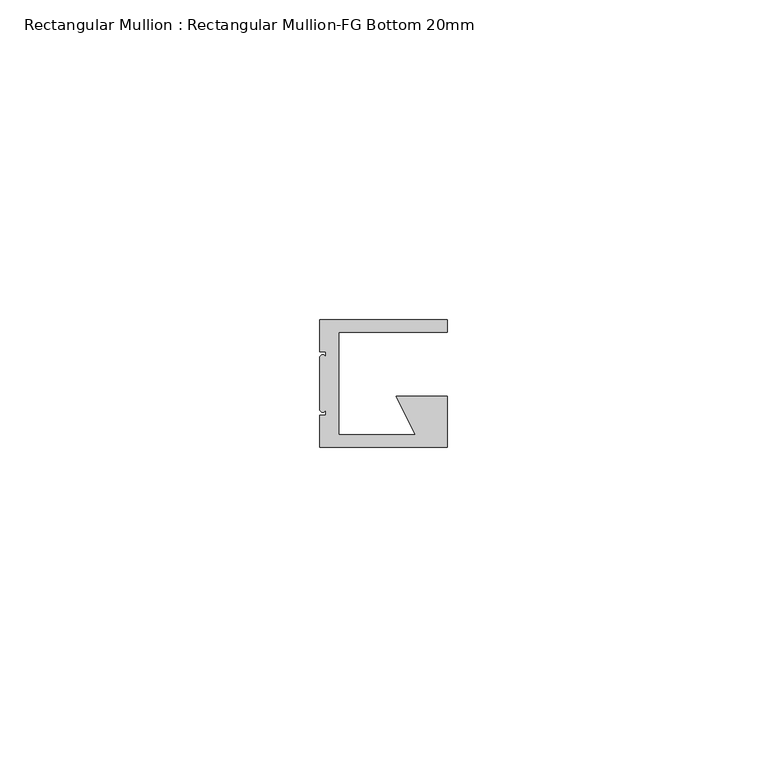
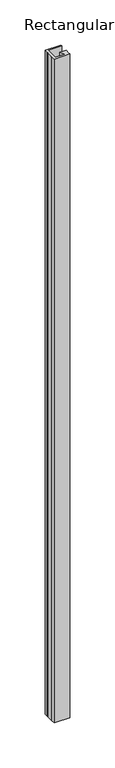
"""IFC4 building model written with IfcOpenShell, lengths in millimetres: member geometry, Rectangular Mullion : Rectangular Mullion-FG Bottom 20mm."""

from ifc_helpers import new_model, si_unit, frame, origin, place, context, project, spatial, circle_curve, source, transform, mapped, element, save
from ifc_brep_helpers import plane_surface, cylinder_surface, advanced_brep


def rectangular_mullion_rectangular_mullion_fg_bottom_20mm_6217017c(model_context):
    return source(origin(), model_context, "Body", "AdvancedBrep", [
        advanced_brep(
        [(-20.0, -5.0, 0.0), (-19.0, -5.0, 0.0), (-19.0, -6.0, 0.0), (-20.0, -6.0, 0.0), (-20.0, -14.0, 0.0), (-19.0, -14.0, 0.0), (-19.0, -15.0, 0.0), (-20.0, -15.0, 0.0), (-20.0, -20.0, 0.0), (0.0, -20.0, 0.0), (0.0, -18.0, 0.0), (0.0, -12.0, 0.0), (-8.0, -12.0, 0.0), (-5.0, -18.0, 0.0), (-17.0, -18.0, 0.0), (-17.0, -2.0, 0.0), (0.0, -2.0, 0.0), (0.0, 0.0, 0.0), (-20.0, 0.0, 0.0), (-20.0, -5.0, -900.0), (-20.0, 0.0, -900.0), (0.0, 0.0, -900.0), (0.0, -2.0, -900.0), (-17.0, -2.0, -900.0), (-17.0, -18.0, -900.0), (-5.0, -18.0, -900.0), (-8.0, -12.0, -900.0), (0.0, -12.0, -900.0), (0.0, -18.0, -900.0), (0.0, -20.0, -900.0), (-20.0, -20.0, -900.0), (-20.0, -15.0, -900.0), (-19.0, -15.0, -900.0), (-19.0, -14.0, -900.0), (-20.0, -14.0, -900.0), (-20.0, -6.0, -900.0), (-19.0, -6.0, -900.0), (-19.0, -5.0, -900.0)],
        [
            (0, 1),
            (1, 2),
            (2, 3, circle_curve(frame((-19.5, -6.0, 0.0), z_axis=(0.0, 0.0, 1.0), x_axis=(-1.0, 0.0, 0.0)), 0.5)),
            (3, 4),
            (4, 5, circle_curve(frame((-19.5, -14.0, 0.0), z_axis=(0.0, 0.0, 1.0), x_axis=(-1.0, 0.0, 0.0)), 0.5)),
            (5, 6),
            (6, 7),
            (7, 8),
            (8, 9),
            (9, 10),
            (10, 11),
            (11, 12),
            (12, 13),
            (13, 14),
            (14, 15),
            (15, 16),
            (16, 17),
            (17, 18),
            (18, 0),
            (19, 20),
            (20, 21),
            (21, 22),
            (22, 23),
            (23, 24),
            (24, 25),
            (25, 26),
            (26, 27),
            (27, 28),
            (28, 29),
            (29, 30),
            (30, 31),
            (31, 32),
            (32, 33),
            (33, 34, circle_curve(frame((-19.5, -14.0, -900.0), z_axis=(0.0, 0.0, -1.0), x_axis=(-1.0, 0.0, 0.0)), 0.5)),
            (34, 35),
            (35, 36, circle_curve(frame((-19.5, -6.0, -900.0), z_axis=(0.0, 0.0, -1.0), x_axis=(-1.0, 0.0, 0.0)), 0.5)),
            (36, 37),
            (37, 19),
            (0, 19),
            (37, 1),
            (36, 2),
            (35, 3),
            (34, 4),
            (33, 5),
            (32, 6),
            (31, 7),
            (30, 8),
            (29, 9),
            (28, 10),
            (27, 11),
            (26, 12),
            (25, 13),
            (24, 14),
            (23, 15),
            (22, 16),
            (21, 17),
            (20, 18),
        ],
        [
            plane_surface(frame((0.0, -28.2842712, 0.0), z_axis=(0.0, 0.0, 1.0), x_axis=(-1.0, 0.0, 0.0))),
            plane_surface(frame((0.0, -28.2842712, -900.0), z_axis=(0.0, 0.0, -1.0), x_axis=(-1.0, 0.0, 0.0))),
            plane_surface(frame((-20.0, -5.0, 0.0), z_axis=(0.0, -1.0, 0.0), x_axis=(0.0, 0.0, -1.0))),
            plane_surface(frame((-19.0, -5.0, 0.0), z_axis=(-1.0, 0.0, 0.0), x_axis=(0.0, 0.0, -1.0))),
            cylinder_surface(frame((-19.5, -6.0, 0.0), z_axis=(0.0, 0.0, 1.0), x_axis=(-1.0, 0.0, 0.0)), 0.5),
            plane_surface(frame((-20.0, -6.0, 0.0), z_axis=(-1.0, 0.0, 0.0), x_axis=(0.0, 0.0, -1.0))),
            cylinder_surface(frame((-19.5, -14.0, 0.0), z_axis=(0.0, 0.0, 1.0), x_axis=(-1.0, 0.0, 0.0)), 0.5),
            plane_surface(frame((-19.0, -14.0, 0.0), z_axis=(-1.0, 0.0, 0.0), x_axis=(0.0, 0.0, -1.0))),
            plane_surface(frame((-19.0, -15.0, 0.0), z_axis=(0.0, 1.0, 0.0), x_axis=(0.0, 0.0, -1.0))),
            plane_surface(frame((-20.0, -15.0, 0.0), z_axis=(-1.0, 0.0, 0.0), x_axis=(0.0, 0.0, -1.0))),
            plane_surface(frame((-20.0, -20.0, 0.0), z_axis=(0.0, -1.0, 0.0), x_axis=(0.0, 0.0, -1.0))),
            plane_surface(frame((0.0, -20.0, 0.0), z_axis=(1.0, 0.0, 0.0), x_axis=(0.0, 0.0, -1.0))),
            plane_surface(frame((0.0, -18.0, 0.0), z_axis=(1.0, 0.0, 0.0), x_axis=(0.0, 0.0, -1.0))),
            plane_surface(frame((0.0, -12.0, 0.0), z_axis=(0.0, 1.0, 0.0), x_axis=(0.0, 0.0, -1.0))),
            plane_surface(frame((-8.0, -12.0, 0.0), z_axis=(-0.8944271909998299, -0.4472135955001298, 0.0), x_axis=(0.0, 0.0, -1.0))),
            plane_surface(frame((-5.0, -18.0, 0.0), z_axis=(0.0, 1.0, 0.0), x_axis=(0.0, 0.0, -1.0))),
            plane_surface(frame((-17.0, -18.0, 0.0), z_axis=(1.0, 0.0, 0.0), x_axis=(0.0, 0.0, -1.0))),
            plane_surface(frame((-17.0, -2.0, 0.0), z_axis=(0.0, -1.0, 0.0), x_axis=(0.0, 0.0, -1.0))),
            plane_surface(frame((0.0, -2.0, 0.0), z_axis=(1.0, 0.0, 0.0), x_axis=(0.0, 0.0, -1.0))),
            plane_surface(frame((0.0, 0.0, 0.0), z_axis=(0.0, 1.0, 0.0), x_axis=(0.0, 0.0, -1.0))),
            plane_surface(frame((-20.0, 0.0, 0.0), z_axis=(-1.0, 0.0, 0.0), x_axis=(0.0, 0.0, -1.0))),
        ],
        [
            (0, [[1, 2, 3, 4, 5, 6, 7, 8, 9, 10, 11, 12, 13, 14, 15, 16, 17, 18, 19]]),
            (1, [[20, 21, 22, 23, 24, 25, 26, 27, 28, 29, 30, 31, 32, 33, 34, 35, 36, 37, 38]]),
            (2, [[-1, 39, -38, 40]]),
            (3, [[-2, -40, -37, 41]]),
            (4, [[-3, -41, -36, 42]]),
            (5, [[-4, -42, -35, 43]]),
            (6, [[-5, -43, -34, 44]]),
            (7, [[-6, -44, -33, 45]]),
            (8, [[-7, -45, -32, 46]]),
            (9, [[-8, -46, -31, 47]]),
            (10, [[-9, -47, -30, 48]]),
            (11, [[-10, -48, -29, 49]]),
            (12, [[-11, -49, -28, 50]]),
            (13, [[-12, -50, -27, 51]]),
            (14, [[-13, -51, -26, 52]]),
            (15, [[-14, -52, -25, 53]]),
            (16, [[-15, -53, -24, 54]]),
            (17, [[-16, -54, -23, 55]]),
            (18, [[-17, -55, -22, 56]]),
            (19, [[-18, -56, -21, 57]]),
            (20, [[-19, -57, -20, -39]]),
        ],
    ),
    ])


if __name__ == "__main__":
    model = new_model("IFC4")
    model_context = context("Model", 3, world=origin())
    ifc_project = project(units=[si_unit("LENGTHUNIT", "METRE", prefix="MILLI")], contexts=[model_context])
    site = spatial("IfcSite", under=ifc_project)
    building = spatial("IfcBuilding", under=site)
    placement = place(None, origin())
    rectangular_mullion_rectangular_mullion_fg_bottom_20mm_shape = rectangular_mullion_rectangular_mullion_fg_bottom_20mm_6217017c(model_context)
    element("IfcMember", 1, ObjectType="Rectangular Mullion : Rectangular Mullion-FG Bottom 20mm", at=placement, inside=building, context=model_context, shape_type="MappedRepresentation", body=[
        mapped(rectangular_mullion_rectangular_mullion_fg_bottom_20mm_shape, transform((0.0, 0.0, 0.0), x_axis=(1.0, 0.0, 0.0), y_axis=(0.0, 1.0, 0.0), z_axis=(0.0, 0.0, 1.0))),
    ])
    save(model, "model.ifc")
